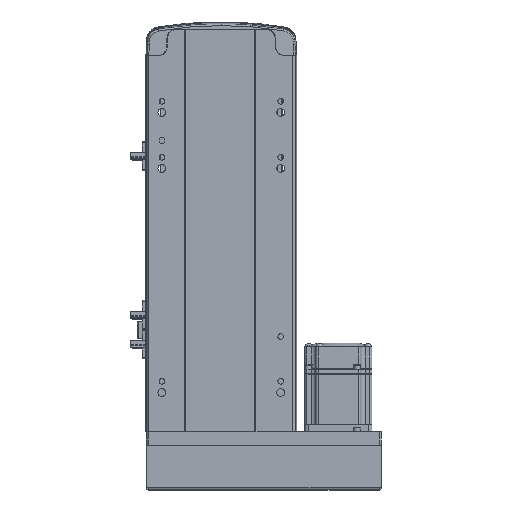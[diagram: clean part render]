
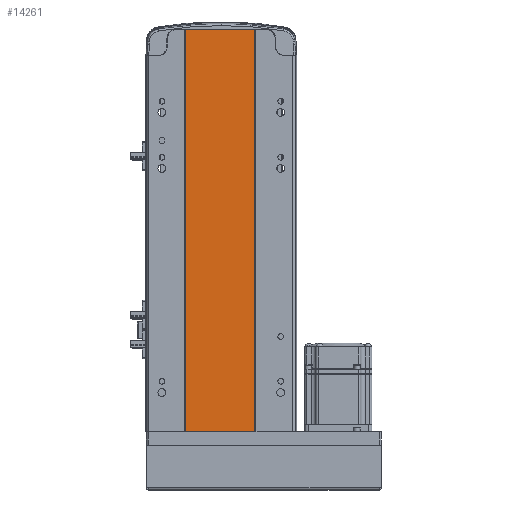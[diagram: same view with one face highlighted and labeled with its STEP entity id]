
A CAD part, front view. The second image highlights one B-rep face of the part: STEP entity #14261.
In plain terms, the highlighted planar face has unit normal (0, -1, 0).
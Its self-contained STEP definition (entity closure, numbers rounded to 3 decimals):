
#4 = LINE ( 'NONE', #50207, #21105 ) ;
#834 = VERTEX_POINT ( 'NONE', #17938 ) ;
#913 = LINE ( 'NONE', #54450, #27488 ) ;
#2701 = DIRECTION ( 'NONE',  ( 0., 0., -1. ) ) ;
#2855 = ORIENTED_EDGE ( 'NONE', *, *, #13047, .T. ) ;
#4088 = DIRECTION ( 'NONE',  ( -1., 0., 0. ) ) ;
#7141 = CARTESIAN_POINT ( 'NONE',  ( -32., 1., 359. ) ) ;
#10956 = FACE_OUTER_BOUND ( 'NONE', #21640, .T. ) ;
#12934 = VECTOR ( 'NONE', #44964, 1000. ) ;
#13047 = EDGE_CURVE ( 'NONE', #34738, #834, #913, .T. ) ;
#14261 = ADVANCED_FACE ( 'NONE', ( #10956 ), #38974, .F. ) ;
#15872 = ORIENTED_EDGE ( 'NONE', *, *, #41192, .F. ) ;
#16839 = LINE ( 'NONE', #39086, #50229 ) ;
#17938 = CARTESIAN_POINT ( 'NONE',  ( -32., 1., 0. ) ) ;
#18139 = ORIENTED_EDGE ( 'NONE', *, *, #18576, .T. ) ;
#18576 = EDGE_CURVE ( 'NONE', #834, #47399, #16839, .T. ) ;
#19165 = DIRECTION ( 'NONE',  ( 1., 0., 0. ) ) ;
#19799 = VERTEX_POINT ( 'NONE', #52290 ) ;
#21105 = VECTOR ( 'NONE', #19165, 1000. ) ;
#21403 = CARTESIAN_POINT ( 'NONE',  ( -32., 1., 359. ) ) ;
#21512 = DIRECTION ( 'NONE',  ( 1., 0., 0. ) ) ;
#21640 = EDGE_LOOP ( 'NONE', ( #18139, #54321, #15872, #2855 ) ) ;
#21860 = CARTESIAN_POINT ( 'NONE',  ( 30., 1., 359. ) ) ;
#25863 = LINE ( 'NONE', #21860, #12934 ) ;
#27488 = VECTOR ( 'NONE', #2701, 1000. ) ;
#27754 = CARTESIAN_POINT ( 'NONE',  ( 30., 1., 0. ) ) ;
#33947 = AXIS2_PLACEMENT_3D ( 'NONE', #21403, #42795, #4088 ) ;
#34738 = VERTEX_POINT ( 'NONE', #7141 ) ;
#38974 = PLANE ( 'NONE',  #33947 ) ;
#39086 = CARTESIAN_POINT ( 'NONE',  ( -32., 1., 0. ) ) ;
#41113 = EDGE_CURVE ( 'NONE', #19799, #47399, #25863, .T. ) ;
#41192 = EDGE_CURVE ( 'NONE', #34738, #19799, #4, .T. ) ;
#42795 = DIRECTION ( 'NONE',  ( 0., 1., 0. ) ) ;
#44964 = DIRECTION ( 'NONE',  ( 0., 0., -1. ) ) ;
#47399 = VERTEX_POINT ( 'NONE', #27754 ) ;
#50207 = CARTESIAN_POINT ( 'NONE',  ( -32., 1., 359. ) ) ;
#50229 = VECTOR ( 'NONE', #21512, 1000. ) ;
#52290 = CARTESIAN_POINT ( 'NONE',  ( 30., 1., 359. ) ) ;
#54321 = ORIENTED_EDGE ( 'NONE', *, *, #41113, .F. ) ;
#54450 = CARTESIAN_POINT ( 'NONE',  ( -32., 1., 359. ) ) ;
